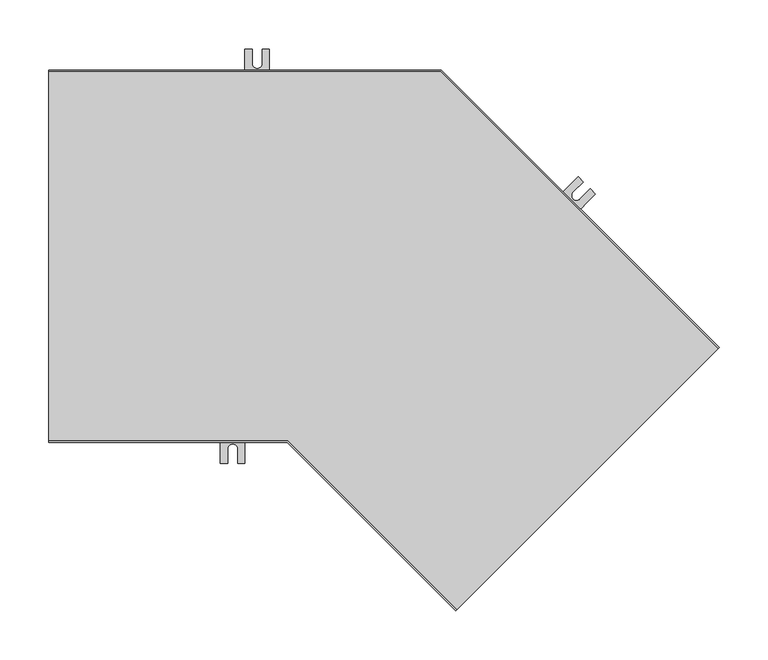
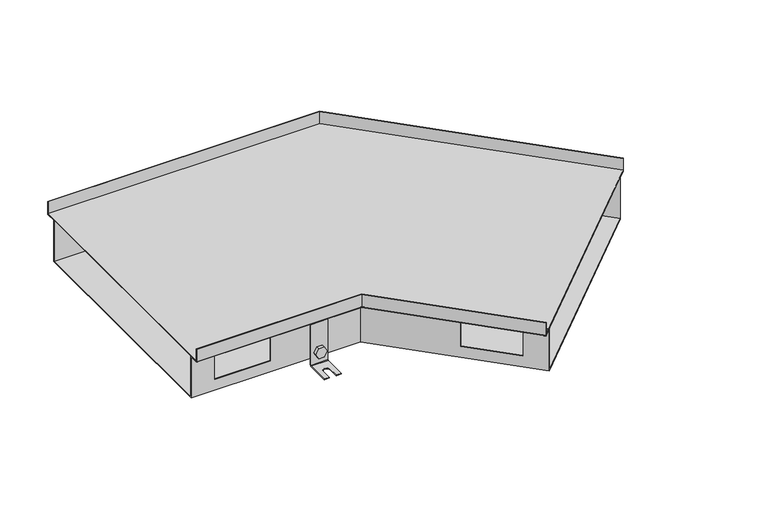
"""IFC4 building model written with IfcOpenShell, lengths in millimetres: proxy geometry, TECHNO_Угловой элемент_KVU : 380_085_135°."""

import ifcopenshell
import ifcopenshell.guid

model = None  # the IFC model being written
_history = None  # IfcOwnerHistory: only IFC2X3 demands one
_inside = {}  # id of a spatial element -> (the spatial element, [elements in it])
_under = {}  # id of a project, library or spatial element -> (it, [spatial elements below it])
_declared = {}  # id of a project -> (the project, [libraries it declares])
_typed = {}  # id of a type object -> (the type object, [elements of that type])
_made_of = {}  # id of a material, layer set ... -> (it, [elements and type objects made of it])


def new_model(schema):
    """Start an empty IFC model of exactly this schema.

    Asked for "IFC4X3", IfcOpenShell would pick the latest addendum, in which some entities
    have other attributes; the version numbers below select the first issue.
    IFC2X3 requires an IfcOwnerHistory on every rooted entity: one is made here for all.
    """
    global model, _history
    if schema == "IFC4X3":
        model = ifcopenshell.file(schema_version=(4, 3, 0, 0))
    else:
        model = ifcopenshell.file(schema=schema)
    _inside.clear()
    _under.clear()
    _declared.clear()
    _typed.clear()
    _made_of.clear()
    _history = None
    if model.schema == "IFC2X3":
        org = make("IfcOrganization", Name="unknown")
        user = make(
            "IfcPersonAndOrganization",
            ThePerson=make("IfcPerson", FamilyName="unknown"),
            TheOrganization=org,
        )
        app = make(
            "IfcApplication",
            ApplicationDeveloper=org,
            Version="unknown",
            ApplicationFullName="unknown",
            ApplicationIdentifier="unknown",
        )
        _history = make(
            "IfcOwnerHistory",
            OwningUser=user,
            OwningApplication=app,
            ChangeAction="ADDED",
            CreationDate=0,
        )
    return model


def make(cls, **values):
    """One entity of the class cls with the attributes given. An attribute that is None is left unset."""
    return model.create_entity(
        cls, **{name: value for name, value in values.items() if value is not None}
    )


def rooted(cls, **values):
    """An entity with a GlobalId (a new one), such as an element, a storey or a relation."""
    return make(cls, GlobalId=ifcopenshell.guid.new(), OwnerHistory=_history, **values)


def si_unit(unit_type, name, prefix=None):
    """IfcSIUnit, for example si_unit("LENGTHUNIT", "METRE", prefix="MILLI")."""
    return make("IfcSIUnit", UnitType=unit_type, Prefix=prefix, Name=name)


def assignment(units):
    """IfcUnitAssignment: the units of a project."""
    return None if units is None else make("IfcUnitAssignment", Units=units)


def point(xyz):
    """IfcCartesianPoint."""
    return None if xyz is None else make("IfcCartesianPoint", Coordinates=xyz)


def direction(xyz):
    """IfcDirection."""
    return None if xyz is None else make("IfcDirection", DirectionRatios=xyz)


def frame(location, z_axis=None, x_axis=None):
    """IfcAxis2Placement3D, a coordinate frame: its origin and axes. An axis left out is left unset."""
    return make(
        "IfcAxis2Placement3D",
        Location=point(location),
        Axis=direction(z_axis),
        RefDirection=direction(x_axis),
    )


def frame_2d(location, x_axis=None):
    """IfcAxis2Placement2D, a coordinate frame in the plane: its origin and x axis."""
    return make(
        "IfcAxis2Placement2D", Location=point(location), RefDirection=direction(x_axis)
    )


def origin():
    """The frame at (0, 0, 0) with its axes left unset."""
    return frame((0.0, 0.0, 0.0))


def place(relative_to, where):
    """IfcLocalPlacement: puts the frame where relative to a parent placement (None: the world)."""
    return make(
        "IfcLocalPlacement", PlacementRelTo=relative_to, RelativePlacement=where
    )


def context(
    kind, dimensions, precision=None, world=None, true_north=None, identifier=None
):
    """IfcGeometricRepresentationContext, for example the 3D "Model" context."""
    return make(
        "IfcGeometricRepresentationContext",
        ContextIdentifier=identifier,
        ContextType=kind,
        CoordinateSpaceDimension=dimensions,
        Precision=precision,
        WorldCoordinateSystem=world,
        TrueNorth=true_north,
    )


def project(units=None, contexts=None):
    """IfcProject with its units and contexts."""
    return rooted(
        "IfcProject",
        Name="project",
        RepresentationContexts=contexts,
        UnitsInContext=assignment(units),
    )


def spatial(cls, under=None, at=None, **own):
    """A site, building, storey or space (cls), placed at a placement, below another one or the project."""
    s = rooted(cls, ObjectPlacement=at, **own)
    if under is not None:
        _under.setdefault(under.id(), (under, []))[1].append(s)
    return s


def polyline(points):
    """IfcPolyline through the points."""
    return make("IfcPolyline", Points=[point(p) for p in points])


def circle_curve(where, radius):
    """IfcCircle in the frame where."""
    return make("IfcCircle", Position=where, Radius=radius)


def ellipse_curve(where, semi_axis1, semi_axis2):
    """IfcEllipse in the frame where."""
    return make(
        "IfcEllipse", Position=where, SemiAxis1=semi_axis1, SemiAxis2=semi_axis2
    )


def trimmed(basis, trim1, trim2, sense, master):
    """IfcTrimmedCurve: the piece of a basis curve between two trims."""
    return make(
        "IfcTrimmedCurve",
        BasisCurve=basis,
        Trim1=trim1,
        Trim2=trim2,
        SenseAgreement=sense,
        MasterRepresentation=master,
    )


def segment(curve, same_sense, transition):
    """IfcCompositeCurveSegment."""
    return make(
        "IfcCompositeCurveSegment",
        Transition=transition,
        SameSense=same_sense,
        ParentCurve=curve,
    )


def composite_curve(segments, self_intersect=None):
    """IfcCompositeCurve: segments joined end to end."""
    return make("IfcCompositeCurve", Segments=segments, SelfIntersect=self_intersect)


def outline(outer, holes=None, kind="AREA"):
    """IfcArbitraryClosedProfileDef: a profile drawn as a closed curve; with holes, ...WithVoids."""
    if holes is None:
        return make("IfcArbitraryClosedProfileDef", ProfileType=kind, OuterCurve=outer)
    return make(
        "IfcArbitraryProfileDefWithVoids",
        ProfileType=kind,
        OuterCurve=outer,
        InnerCurves=holes,
    )


def extrude(swept, where, along, depth):
    """IfcExtrudedAreaSolid: the profile swept, set in the frame where, extruded along a direction by depth."""
    return make(
        "IfcExtrudedAreaSolid",
        SweptArea=swept,
        Position=where,
        ExtrudedDirection=direction(along),
        Depth=depth,
    )


def shape(context_of_items, identifier, shape_type, items):
    """IfcShapeRepresentation: the items that make up one representation, for example the "Body"."""
    return make(
        "IfcShapeRepresentation",
        ContextOfItems=context_of_items,
        RepresentationIdentifier=identifier,
        RepresentationType=shape_type,
        Items=items,
    )


def source(mapping_origin, context_of_items, identifier, shape_type, items):
    """IfcRepresentationMap: a shape defined once, which mapped items show again and again."""
    return make(
        "IfcRepresentationMap",
        MappingOrigin=mapping_origin,
        MappedRepresentation=shape(context_of_items, identifier, shape_type, items),
    )


def transform(
    local_origin,
    x_axis=None,
    y_axis=None,
    z_axis=None,
    scale=None,
    scale2=None,
    scale3=None,
    uniform=True,
):
    """IfcCartesianTransformationOperator3D, or its non-uniform kind. x_axis, y_axis, z_axis: its Axis1, 2, 3."""
    if uniform:
        return make(
            "IfcCartesianTransformationOperator3D",
            Axis1=direction(x_axis),
            Axis2=direction(y_axis),
            LocalOrigin=point(local_origin),
            Scale=scale,
            Axis3=direction(z_axis),
        )
    return make(
        "IfcCartesianTransformationOperator3DnonUniform",
        Axis1=direction(x_axis),
        Axis2=direction(y_axis),
        LocalOrigin=point(local_origin),
        Scale=scale,
        Axis3=direction(z_axis),
        Scale2=scale2,
        Scale3=scale3,
    )


def mapped(mapping_source, mapping_target):
    """IfcMappedItem: shows the shape of a source again, moved by a transform."""
    return make(
        "IfcMappedItem", MappingSource=mapping_source, MappingTarget=mapping_target
    )


def made_of(thing, what):
    """Note that an element or type object is made of a material, layer set ...; save() writes the relation."""
    if what is not None:
        _made_of.setdefault(what.id(), (what, []))[1].append(thing)
    return thing


def element(
    cls,
    number,
    at=None,
    inside=None,
    cuts=None,
    type_object=None,
    material=None,
    context=None,
    identifier="Body",
    shape_type=None,
    held_by="IfcProductDefinitionShape",
    body=None,
    shapes=None,
    **own,
):
    """One element of the class cls, such as IfcWall. Its Tag is "e" and its number.

    at: its placement. inside: the storey or other place that contains it. cuts: it is an
    opening in that element (IfcRelVoidsElement). A single representation is given by context,
    identifier, shape_type and body (its items); several are given by shapes. held_by: the class
    of the entity that holds the representations. save() writes the other relations.
    """
    e = rooted(cls, Tag="e%d" % number, ObjectPlacement=at, **own)
    if body is not None:
        shapes = [shape(context, identifier, shape_type, body)]
    if shapes is not None:
        e.Representation = make(held_by, Representations=shapes)
    if inside is not None:
        _inside.setdefault(inside.id(), (inside, []))[1].append(e)
    if cuts is not None:
        rooted(
            "IfcRelVoidsElement", RelatingBuildingElement=cuts, RelatedOpeningElement=e
        )
    if type_object is not None:
        _typed.setdefault(type_object.id(), (type_object, []))[1].append(e)
    return made_of(e, material)


def aggregate(whole, parts):
    """IfcRelAggregates: a whole, such as a stair, and the parts it consists of."""
    return rooted("IfcRelAggregates", RelatingObject=whole, RelatedObjects=parts)


def save(model, path):
    """Write the relations noted so far, then the file.

    IfcRelAggregates (storeys below a building ...), IfcRelContainedInSpatialStructure (elements
    in a storey), IfcRelDefinesByType, IfcRelAssociatesMaterial and IfcRelDeclares: one each for
    every whole, place, type object, material and project.
    """
    for whole, parts in _under.values():
        aggregate(whole, parts)
    for where, things in _inside.values():
        rooted(
            "IfcRelContainedInSpatialStructure",
            RelatedElements=things,
            RelatingStructure=where,
        )
    for kind, things in _typed.values():
        rooted("IfcRelDefinesByType", RelatedObjects=things, RelatingType=kind)
    for what, things in _made_of.values():
        rooted("IfcRelAssociatesMaterial", RelatedObjects=things, RelatingMaterial=what)
    for by, libraries in _declared.values():
        rooted("IfcRelDeclares", RelatingContext=by, RelatedDefinitions=libraries)
    model.write(path)


def plane_surface(at):
    """IfcPlane: the flat surface through the origin of the frame at, square to its z axis."""
    return make("IfcPlane", Position=at)


def cylinder_surface(at, radius):
    """IfcCylindricalSurface: all points at the distance radius from the z axis of the frame at."""
    return make("IfcCylindricalSurface", Position=at, Radius=radius)


def revolved_surface(curve, axis_point, axis_direction):
    """IfcSurfaceOfRevolution: the curve turned about the line through axis_point along axis_direction."""
    return make(
        "IfcSurfaceOfRevolution",
        SweptCurve=make("IfcArbitraryOpenProfileDef", ProfileType="CURVE", Curve=curve),
        AxisPosition=make("IfcAxis1Placement", Location=point(axis_point), Axis=direction(axis_direction)),
    )


def advanced_brep(points, edges, surfaces, faces):
    """IfcAdvancedBrep: a solid bounded by faces that lie on surfaces and meet in shared edges.

    An edge is (start, end): straight between two places in points (the first is 0);
    or (start, end, curve); or (start, end, curve, False) where it runs against its curve.
    A face is (place in surfaces, loops), or (place, loops, False) where it looks against
    its surface's normal. A loop lists edges by number (the first is 1), with a minus sign
    where the edge is run from its end to its start. The first loop is the outer one.
    """
    corners = [point(p) for p in points]
    vertices = [make("IfcVertexPoint", VertexGeometry=c) for c in corners]
    made = []
    for start, end, *more in edges:
        made.append(
            make(
                "IfcEdgeCurve",
                EdgeStart=vertices[start],
                EdgeEnd=vertices[end],
                EdgeGeometry=more[0] if more else make("IfcPolyline", Points=[corners[start], corners[end]]),
                SameSense=more[1] if len(more) > 1 else True,
            )
        )
    hull = []
    for where, loops, *sense in faces:
        bounds = []
        for j, loop in enumerate(loops):
            ring = [make("IfcOrientedEdge", EdgeElement=made[abs(k) - 1], Orientation=k > 0) for k in loop]
            bounds.append(
                make(
                    "IfcFaceOuterBound" if j == 0 else "IfcFaceBound",
                    Bound=make("IfcEdgeLoop", EdgeList=ring),
                    Orientation=True,
                )
            )
        hull.append(make("IfcAdvancedFace", Bounds=bounds, FaceSurface=surfaces[where], SameSense=sense[0] if sense else True))
    return make("IfcAdvancedBrep", Outer=make("IfcClosedShell", CfsFaces=hull))


def mechanical_equipment_67af57b6(model_context):
    return source(origin(), model_context, "Body", "SolidModel", [
        extrude(outline(composite_curve([segment(trimmed(circle_curve(frame_2d((0.0, -7.5)), 7.5), [point((0.0, -15.0))], [point((0.0, 0.0))], False, "CARTESIAN"), True, "CONTINUOUS"), segment(trimmed(circle_curve(frame_2d((0.0, -7.5)), 7.5), [point((0.0, 0.0))], [point((0.0, -15.0))], False, "CARTESIAN"), True, "CONTINUOUS")], self_intersect=False)), frame((482.1001225, -40.233968, -75.5), z_axis=(0.7071067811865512, 0.7071067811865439, 0.0), x_axis=(0.0, 0.0, 1.0)), (0.0, 0.0, 1.0), 1.5),
        extrude(outline(polyline([(0.0, 0.0), (8.660254, 0.0), (12.990381, -7.5), (8.660254, -15.0), (0.0, -15.0), (-4.330127, -7.5), (0.0, 0.0)])), frame((466.2183246, -33.2617155, -75.5), z_axis=(0.7071067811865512, 0.7071067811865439, 0.0), x_axis=(0.3535533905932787, -0.3535533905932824, -0.8660254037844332)), (0.0, 0.0, 1.0), 5.1),
        advanced_brep(
        [(484.7871283, -44.61803, -30.5), (484.7871283, -44.61803, -93.5), (484.2214429, -45.1837154, -94.3), (460.8869191, -68.5182392, -94.3), (460.8869191, -68.5182392, -95.5), (484.2214429, -45.1837154, -95.5), (485.6356565, -43.7695019, -93.5), (485.6356565, -43.7695019, -30.5), (467.1094588, -26.9403605, -30.5), (467.9579869, -26.0918323, -30.5), (467.9579869, -26.0918323, -93.5), (466.5437734, -27.5060459, -95.5), (443.2092496, -50.8405697, -95.5), (443.2092496, -50.8405697, -94.3), (466.5437734, -27.5060459, -94.3), (467.1094588, -26.9403605, -93.5), (448.5125504, -56.1438705, -94.3), (459.1191522, -45.5372688, -94.3), (466.19022, -52.6083366, -94.3), (455.5836183, -63.2149383, -94.3), (455.5836183, -63.2149383, -95.5), (448.5125504, -56.1438705, -95.5), (466.19022, -52.6083366, -95.5), (459.1191522, -45.5372688, -95.5)],
        [
            (0, 1),
            (1, 2, circle_curve(frame((484.2214429, -45.1837154, -93.5), z_axis=(-0.7071067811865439, 0.7071067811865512, 0.0), x_axis=(-0.7071067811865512, -0.7071067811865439, 0.0)), 0.8)),
            (2, 3),
            (3, 4),
            (4, 5),
            (5, 6, circle_curve(frame((484.2214429, -45.1837154, -93.5), z_axis=(0.7071067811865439, -0.7071067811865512, 0.0), x_axis=(-0.7071067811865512, -0.7071067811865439, 0.0)), 2.0)),
            (6, 7),
            (7, 0),
            (8, 9),
            (9, 10),
            (10, 11, circle_curve(frame((466.5437734, -27.5060459, -93.5), z_axis=(-0.7071067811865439, 0.7071067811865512, 0.0), x_axis=(-0.7071067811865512, -0.7071067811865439, 0.0)), 2.0)),
            (11, 12),
            (12, 13),
            (13, 14),
            (14, 15, circle_curve(frame((466.5437734, -27.5060459, -93.5), z_axis=(0.7071067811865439, -0.7071067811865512, 0.0), x_axis=(-0.7071067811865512, -0.7071067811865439, 0.0)), 0.8)),
            (15, 8),
            (0, 8),
            (15, 1),
            (14, 2),
            (13, 16),
            (16, 17),
            (17, 18, circle_curve(frame((462.6546861, -49.0728027, -94.3), z_axis=(0.0, 0.0, -1.0), x_axis=(0.7071067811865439, -0.7071067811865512, 0.0)), 5.0)),
            (18, 19),
            (19, 3),
            (19, 20),
            (20, 4),
            (12, 21),
            (21, 16),
            (20, 22),
            (22, 23, circle_curve(frame((462.6546861, -49.0728027, -95.5), z_axis=(0.0, 0.0, 1.0), x_axis=(0.7071067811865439, -0.7071067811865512, 0.0)), 5.0)),
            (23, 21),
            (11, 5),
            (10, 6),
            (9, 7),
            (23, 17),
            (18, 22),
        ],
        [
            plane_surface(frame((484.7871283, -44.61803, -30.5), z_axis=(0.7071067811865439, -0.7071067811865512, 0.0), x_axis=(0.0, 0.0, -1.0))),
            plane_surface(frame((467.1094588, -26.9403605, -30.5), z_axis=(-0.7071067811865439, 0.7071067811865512, 0.0), x_axis=(0.0, 0.0, 1.0))),
            plane_surface(frame((484.7871283, -44.61803, -30.5), z_axis=(-0.7071067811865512, -0.7071067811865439, 0.0), x_axis=(-0.7071067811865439, 0.7071067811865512, 0.0))),
            revolved_surface(polyline([(465.97808797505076, -28.071731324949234, -93.5), (483.6557574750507, -45.74940082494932, -93.5)]), (466.5437734, -27.5060459, -93.5), (-0.7071067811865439, 0.7071067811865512, 0.0)),
            plane_surface(frame((484.2214429, -45.1837154, -94.3), z_axis=(0.0, 0.0, 1.0), x_axis=(-0.7071067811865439, 0.7071067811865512, 0.0))),
            plane_surface(frame((460.8869191, -68.5182392, -94.3), z_axis=(-0.7071067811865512, -0.7071067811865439, 0.0), x_axis=(-0.7071067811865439, 0.7071067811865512, 0.0))),
            plane_surface(frame((460.8869191, -68.5182392, -95.5), z_axis=(0.0, 0.0, -1.0), x_axis=(-0.7071067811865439, 0.7071067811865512, 0.0))),
            cylinder_surface(frame((466.5437734, -27.5060459, -93.5), z_axis=(0.7071067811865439, -0.7071067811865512, 0.0), x_axis=(-0.7071067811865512, -0.7071067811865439, 0.0)), 2.0),
            plane_surface(frame((485.6356565, -43.7695019, -93.5), z_axis=(0.7071067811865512, 0.7071067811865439, 0.0), x_axis=(-0.7071067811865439, 0.7071067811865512, 0.0))),
            plane_surface(frame((485.6356565, -43.7695019, -30.5), z_axis=(0.0, 0.0, 1.0), x_axis=(-0.7071067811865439, 0.7071067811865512, 0.0))),
            plane_surface(frame((459.1191522, -45.5372688, -94.3), z_axis=(0.7071067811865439, -0.7071067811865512, 0.0), x_axis=(0.0, 0.0, -1.0))),
            plane_surface(frame((455.5836183, -63.2149383, -94.3), z_axis=(-0.707106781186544, 0.7071067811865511, 0.0), x_axis=(0.0, 0.0, -1.0))),
            revolved_surface(polyline([(466.1902200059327, -52.608336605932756, -94.3), (466.1902200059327, -52.608336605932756, -95.5)]), (462.6546861, -49.0728027, -95.5), (0.0, 0.0, 1.0)),
        ],
        [
            (0, [[1, 2, 3, 4, 5, 6, 7, 8]]),
            (1, [[9, 10, 11, 12, 13, 14, 15, 16]]),
            (2, [[-1, 17, -16, 18]]),
            (3, [[-2, -18, -15, 19]]),
            (4, [[-3, -19, -14, 20, 21, 22, 23, 24]]),
            (5, [[-4, -24, 25, 26]]),
            (5, [[-13, 27, 28, -20]]),
            (6, [[-5, -26, 29, 30, 31, -27, -12, 32]]),
            (7, [[-6, -32, -11, 33]]),
            (8, [[-7, -33, -10, 34]]),
            (9, [[-8, -34, -9, -17]]),
            (10, [[35, -21, -28, -31]]),
            (11, [[36, -29, -25, -23]]),
            (12, [[-35, -30, -36, -22]]),
        ],
    ),
        extrude(outline(composite_curve([segment(trimmed(circle_curve(frame_2d((0.0, -7.5)), 7.5), [point((0.0, -15.0))], [point((0.0, 0.0))], False, "CARTESIAN"), True, "CONTINUOUS"), segment(trimmed(circle_curve(frame_2d((0.0, -7.5)), 7.5), [point((0.0, 0.0))], [point((0.0, -15.0))], False, "CARTESIAN"), True, "CONTINUOUS")], self_intersect=False)), frame((517.6675936, 51.9020456, -75.5), z_axis=(0.7071067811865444, 0.7071067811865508, 0.0), x_axis=(0.0, 0.0, -1.0)), (0.0, 0.0, 1.0), 1.5),
        extrude(outline(polyline([(0.0, 0.0), (4.330127, -7.5), (0.0, -15.0000001), (-8.660254, -15.0), (-12.9903811, -7.5000001), (-8.6602541, 0.0), (0.0, 0.0)])), frame((531.0038072, 42.3842087, -75.5), z_axis=(0.7071067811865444, 0.7071067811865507, 0.0), x_axis=(0.35355339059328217, -0.35355339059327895, 0.8660254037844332)), (0.0, 0.0, 1.0), 5.1),
        advanced_brep(
        [(516.041248, 57.3467678, -30.5), (516.041248, 57.3467678, -93.5), (516.6069335, 57.9124533, -94.3), (539.9414572, 81.2469771, -94.3), (539.9414572, 81.2469771, -95.5), (516.6069335, 57.9124533, -95.5), (515.1927199, 56.4982397, -93.5), (515.1927199, 56.4982397, -30.5), (533.7189176, 39.6690983, -30.5), (532.8703894, 38.8205702, -30.5), (532.8703894, 38.8205702, -93.5), (534.284603, 40.2347837, -95.5), (557.6191268, 63.5693075, -95.5), (557.6191268, 63.5693075, -94.3), (534.284603, 40.2347837, -94.3), (533.7189176, 39.6690983, -93.5), (552.3158259, 68.8726084, -94.3), (541.7092242, 58.2660067, -94.3), (534.6381564, 65.3370745, -94.3), (545.2447581, 75.9436762, -94.3), (545.2447581, 75.9436762, -95.5), (552.3158259, 68.8726084, -95.5), (534.6381564, 65.3370745, -95.5), (541.7092242, 58.2660067, -95.5)],
        [
            (0, 1),
            (1, 2, circle_curve(frame((516.6069335, 57.9124533, -93.5), z_axis=(0.7071067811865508, -0.7071067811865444, 0.0), x_axis=(0.7071067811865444, 0.7071067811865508, 0.0)), 0.8)),
            (2, 3),
            (3, 4),
            (4, 5),
            (5, 6, circle_curve(frame((516.6069335, 57.9124533, -93.5), z_axis=(-0.7071067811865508, 0.7071067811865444, 0.0), x_axis=(0.7071067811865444, 0.7071067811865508, 0.0)), 2.0)),
            (6, 7),
            (7, 0),
            (8, 9),
            (9, 10),
            (10, 11, circle_curve(frame((534.284603, 40.2347837, -93.5), z_axis=(0.7071067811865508, -0.7071067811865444, 0.0), x_axis=(0.7071067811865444, 0.7071067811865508, 0.0)), 2.0)),
            (11, 12),
            (12, 13),
            (13, 14),
            (14, 15, circle_curve(frame((534.284603, 40.2347837, -93.5), z_axis=(-0.7071067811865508, 0.7071067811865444, 0.0), x_axis=(0.7071067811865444, 0.7071067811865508, 0.0)), 0.8)),
            (15, 8),
            (0, 8),
            (15, 1),
            (14, 2),
            (13, 16),
            (16, 17),
            (17, 18, circle_curve(frame((538.1736903, 61.8015406, -94.3), z_axis=(0.0, 0.0, -1.0), x_axis=(-0.7071067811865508, 0.7071067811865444, 0.0)), 5.0)),
            (18, 19),
            (19, 3),
            (19, 20),
            (20, 4),
            (12, 21),
            (21, 16),
            (20, 22),
            (22, 23, circle_curve(frame((538.1736903, 61.8015406, -95.5), z_axis=(0.0, 0.0, 1.0), x_axis=(-0.7071067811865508, 0.7071067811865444, 0.0)), 5.0)),
            (23, 21),
            (11, 5),
            (10, 6),
            (9, 7),
            (23, 17),
            (18, 22),
        ],
        [
            plane_surface(frame((516.041248, 57.3467678, -30.5), z_axis=(-0.7071067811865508, 0.7071067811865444, 0.0), x_axis=(0.0, 0.0, -1.0))),
            plane_surface(frame((533.7189176, 39.6690983, -30.5), z_axis=(0.7071067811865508, -0.7071067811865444, 0.0), x_axis=(0.0, 0.0, 1.0))),
            plane_surface(frame((516.041248, 57.3467678, -30.5), z_axis=(0.7071067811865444, 0.7071067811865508, 0.0), x_axis=(0.7071067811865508, -0.7071067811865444, 0.0))),
            revolved_surface(polyline([(534.8502884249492, 40.800469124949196, -93.5), (517.1726188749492, 58.47813867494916, -93.5)]), (534.284603, 40.2347837, -93.5), (0.7071067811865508, -0.7071067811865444, 0.0)),
            plane_surface(frame((516.6069335, 57.9124533, -94.3), z_axis=(0.0, 0.0, 1.0000000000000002), x_axis=(0.7071067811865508, -0.7071067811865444, 0.0))),
            plane_surface(frame((539.9414572, 81.2469771, -94.3), z_axis=(0.7071067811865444, 0.7071067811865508, 0.0), x_axis=(0.7071067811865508, -0.7071067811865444, 0.0))),
            plane_surface(frame((539.9414572, 81.2469771, -95.5), z_axis=(0.0, 0.0, -1.0000000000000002), x_axis=(0.7071067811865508, -0.7071067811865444, 0.0))),
            cylinder_surface(frame((534.284603, 40.2347837, -93.5), z_axis=(-0.7071067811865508, 0.7071067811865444, 0.0), x_axis=(0.7071067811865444, 0.7071067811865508, 0.0)), 2.0),
            plane_surface(frame((515.1927199, 56.4982397, -93.5), z_axis=(-0.7071067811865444, -0.7071067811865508, 0.0), x_axis=(0.7071067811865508, -0.7071067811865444, 0.0))),
            plane_surface(frame((515.1927199, 56.4982397, -30.5), z_axis=(0.0, 0.0, 1.0000000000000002), x_axis=(0.7071067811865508, -0.7071067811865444, 0.0))),
            plane_surface(frame((541.7092242, 58.2660067, -94.3), z_axis=(-0.7071067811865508, 0.7071067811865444, 0.0), x_axis=(0.0, 0.0, -1.0))),
            plane_surface(frame((545.2447581, 75.9436762, -94.3), z_axis=(0.7071067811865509, -0.7071067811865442, 0.0), x_axis=(0.0, 0.0, -1.0))),
            revolved_surface(polyline([(534.6381563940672, 65.33707450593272, -94.3), (534.6381563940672, 65.33707450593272, -95.5)]), (538.1736903, 61.8015406, -95.5), (0.0, 0.0, 1.0)),
        ],
        [
            (0, [[1, 2, 3, 4, 5, 6, 7, 8]]),
            (1, [[9, 10, 11, 12, 13, 14, 15, 16]]),
            (2, [[-1, 17, -16, 18]]),
            (3, [[-2, -18, -15, 19]]),
            (4, [[-3, -19, -14, 20, 21, 22, 23, 24]]),
            (5, [[-4, -24, 25, 26]]),
            (5, [[-13, 27, 28, -20]]),
            (6, [[-5, -26, 29, 30, 31, -27, -12, 32]]),
            (7, [[-6, -32, -11, 33]]),
            (8, [[-7, -33, -10, 34]]),
            (9, [[-8, -34, -9, -17]]),
            (10, [[35, -21, -28, -31]]),
            (11, [[36, -29, -25, -23]]),
            (12, [[-35, -30, -36, -22]]),
        ],
    ),
        extrude(outline(composite_curve([segment(trimmed(circle_curve(frame_2d((-75.5, 212.5)), 7.5), [point((-75.5, 205.0))], [point((-75.5, 220.0))], False, "CARTESIAN"), True, "CONTINUOUS"), segment(trimmed(circle_curve(frame_2d((-75.5, 212.5)), 7.5), [point((-75.5, 220.0))], [point((-75.5, 205.0))], False, "CARTESIAN"), True, "CONTINUOUS")], self_intersect=False)), frame((0.0, 175.2, 0.0), z_axis=(0.0, 1.0, 0.0), x_axis=(0.0, 0.0, 1.0)), (0.0, 0.0, 1.0), 1.5),
        extrude(outline(polyline([(-75.5, 203.839746), (-83.0, 208.169873), (-83.0, 216.830127), (-75.5, 221.160254), (-68.0, 216.830127), (-68.0, 208.169873), (-75.5, 203.839746)])), frame((0.0, 177.9, 0.0), z_axis=(0.0, 1.0, 0.0), x_axis=(0.0, 0.0, 1.0)), (0.0, 0.0, 1.0), 5.1),
        advanced_brep(
        [(225.0, 177.9, -30.5), (225.0, 176.7, -30.5), (225.0, 176.7, -93.5), (225.0, 178.7, -95.5), (225.0, 211.7, -95.5), (225.0, 211.7, -94.3), (225.0, 178.7, -94.3), (225.0, 177.9, -93.5), (200.0, 177.9, -30.5), (200.0, 177.9, -93.5), (200.0, 178.7, -94.3), (200.0, 211.7, -94.3), (200.0, 211.7, -95.5), (200.0, 178.7, -95.5), (200.0, 176.7, -93.5), (200.0, 176.7, -30.5), (217.5, 211.7, -94.3), (217.5, 196.7, -94.3), (207.5, 196.7, -94.3), (207.5, 211.7, -94.3), (207.5, 211.7, -95.5), (217.5, 211.7, -95.5), (207.5, 196.7, -95.5), (217.5, 196.7, -95.5)],
        [
            (0, 1),
            (1, 2),
            (2, 3, circle_curve(frame((225.0, 178.7, -93.5), z_axis=(1.0, 0.0, 0.0), x_axis=(0.0, 1.0, 0.0)), 2.0)),
            (3, 4),
            (4, 5),
            (5, 6),
            (6, 7, circle_curve(frame((225.0, 178.7, -93.5), z_axis=(-1.0, 0.0, 0.0), x_axis=(0.0, 1.0, 0.0)), 0.8)),
            (7, 0),
            (8, 9),
            (9, 10, circle_curve(frame((200.0, 178.7, -93.5), z_axis=(1.0, 0.0, 0.0), x_axis=(0.0, 1.0, 0.0)), 0.8)),
            (10, 11),
            (11, 12),
            (12, 13),
            (13, 14, circle_curve(frame((200.0, 178.7, -93.5), z_axis=(-1.0, 0.0, 0.0), x_axis=(0.0, 1.0, 0.0)), 2.0)),
            (14, 15),
            (15, 8),
            (7, 9),
            (8, 0),
            (6, 10),
            (5, 16),
            (16, 17),
            (17, 18, circle_curve(frame((212.5, 196.7, -94.3), z_axis=(0.0, 0.0, -1.0), x_axis=(1.0, 0.0, 0.0)), 5.0)),
            (18, 19),
            (19, 11),
            (19, 20),
            (20, 12),
            (4, 21),
            (21, 16),
            (3, 13),
            (20, 22),
            (22, 23, circle_curve(frame((212.5, 196.7, -95.5), z_axis=(0.0, 0.0, 1.0), x_axis=(1.0, 0.0, 0.0)), 5.0)),
            (23, 21),
            (2, 14),
            (1, 15),
            (18, 22),
            (23, 17),
        ],
        [
            plane_surface(frame((225.0, 177.9, -30.5), z_axis=(1.0, 0.0, 0.0), x_axis=(0.0, 0.0, -1.0))),
            plane_surface(frame((200.0, 177.9, -30.5), z_axis=(-1.0, 0.0, 0.0), x_axis=(0.0, 0.0, 1.0))),
            plane_surface(frame((225.0, 177.9, -30.5), z_axis=(0.0, 1.0, 0.0), x_axis=(-1.0, 0.0, 0.0))),
            revolved_surface(polyline([(200.0, 179.5, -93.5), (225.0, 179.5, -93.5)]), (200.0, 178.7, -93.5), (-1.0, 0.0, 0.0)),
            plane_surface(frame((225.0, 178.7, -94.3), z_axis=(0.0, 0.0, 1.0), x_axis=(-1.0, 0.0, 0.0))),
            plane_surface(frame((225.0, 211.7, -94.3), z_axis=(0.0, 1.0, 0.0), x_axis=(-1.0, 0.0, 0.0))),
            plane_surface(frame((225.0, 211.7, -95.5), z_axis=(0.0, 0.0, -1.0), x_axis=(-1.0, 0.0, 0.0))),
            cylinder_surface(frame((200.0, 178.7, -93.5), z_axis=(1.0, 0.0, 0.0), x_axis=(0.0, 1.0, 0.0)), 2.0),
            plane_surface(frame((225.0, 176.7, -93.5), z_axis=(0.0, -1.0, 0.0), x_axis=(-1.0, 0.0, 0.0))),
            plane_surface(frame((225.0, 176.7, -30.5), z_axis=(0.0, 0.0, 1.0), x_axis=(-1.0, 0.0, 0.0))),
            plane_surface(frame((207.5, 196.7, -94.3), z_axis=(1.0, 0.0, 0.0), x_axis=(0.0, 0.0, -1.0))),
            plane_surface(frame((217.5, 211.7, -94.3), z_axis=(-1.0, 0.0, 0.0), x_axis=(0.0, 0.0, -1.0))),
            revolved_surface(polyline([(217.5, 196.7, -94.3), (217.5, 196.7, -95.5)]), (212.5, 196.7, -95.5), (0.0, 0.0, 1.0)),
        ],
        [
            (0, [[1, 2, 3, 4, 5, 6, 7, 8]]),
            (1, [[9, 10, 11, 12, 13, 14, 15, 16]]),
            (2, [[17, -9, 18, -8]]),
            (3, [[19, -10, -17, -7]]),
            (4, [[20, 21, 22, 23, 24, -11, -19, -6]]),
            (5, [[-24, 25, 26, -12]]),
            (5, [[27, 28, -20, -5]]),
            (6, [[29, -13, -26, 30, 31, 32, -27, -4]]),
            (7, [[33, -14, -29, -3]]),
            (8, [[34, -15, -33, -2]]),
            (9, [[-18, -16, -34, -1]]),
            (10, [[-30, -25, -23, 35]]),
            (11, [[-21, -28, -32, 36]]),
            (12, [[-22, -36, -31, -35]]),
        ],
    ),
        extrude(outline(composite_curve([segment(trimmed(circle_curve(frame_2d((-75.5, 187.5)), 7.5), [point((-75.5, 180.0))], [point((-75.5, 195.0))], False, "CARTESIAN"), True, "CONTINUOUS"), segment(trimmed(circle_curve(frame_2d((-75.5, 187.5)), 7.5), [point((-75.5, 195.0))], [point((-75.5, 180.0))], False, "CARTESIAN"), True, "CONTINUOUS")], self_intersect=False)), frame((0.0, -176.7, 0.0), z_axis=(0.0, 1.0, 0.0), x_axis=(0.0, 0.0, 1.0)), (0.0, 0.0, 1.0), 1.5),
        extrude(outline(polyline([(-75.5, 178.839746), (-83.0, 183.169873), (-83.0, 191.830127), (-75.5, 196.160254), (-68.0, 191.830127), (-68.0, 183.169873), (-75.5, 178.839746)])), frame((0.0, -183.0, 0.0), z_axis=(0.0, 1.0, 0.0), x_axis=(0.0, 0.0, 1.0)), (0.0, 0.0, 1.0), 5.1),
        advanced_brep(
        [(200.0, -177.9, -30.5), (200.0, -177.9, -93.5), (200.0, -178.7, -94.3), (200.0, -211.7, -94.3), (200.0, -211.7, -95.5), (200.0, -178.7, -95.5), (200.0, -176.7, -93.5), (200.0, -176.7, -30.5), (175.0, -177.9, -30.5), (175.0, -176.7, -30.5), (175.0, -176.7, -93.5), (175.0, -178.7, -95.5), (175.0, -211.7, -95.5), (175.0, -211.7, -94.3), (175.0, -178.7, -94.3), (175.0, -177.9, -93.5), (182.5, -211.7, -94.3), (182.5, -196.7, -94.3), (192.5, -196.7, -94.3), (192.5, -211.7, -94.3), (192.5, -211.7, -95.5), (182.5, -211.7, -95.5), (192.5, -196.7, -95.5), (182.5, -196.7, -95.5)],
        [
            (0, 1),
            (1, 2, circle_curve(frame((200.0, -178.7, -93.5), z_axis=(-1.0, 0.0, 0.0), x_axis=(0.0, -1.0, 0.0)), 0.8)),
            (2, 3),
            (3, 4),
            (4, 5),
            (5, 6, circle_curve(frame((200.0, -178.7, -93.5), z_axis=(1.0, 0.0, 0.0), x_axis=(0.0, -1.0, 0.0)), 2.0)),
            (6, 7),
            (7, 0),
            (8, 9),
            (9, 10),
            (10, 11, circle_curve(frame((175.0, -178.7, -93.5), z_axis=(-1.0, 0.0, 0.0), x_axis=(0.0, -1.0, 0.0)), 2.0)),
            (11, 12),
            (12, 13),
            (13, 14),
            (14, 15, circle_curve(frame((175.0, -178.7, -93.5), z_axis=(1.0, 0.0, 0.0), x_axis=(0.0, -1.0, 0.0)), 0.8)),
            (15, 8),
            (0, 8),
            (15, 1),
            (14, 2),
            (13, 16),
            (16, 17),
            (17, 18, circle_curve(frame((187.5, -196.7, -94.3), z_axis=(0.0, 0.0, -1.0), x_axis=(1.0, 0.0, 0.0)), 5.0)),
            (18, 19),
            (19, 3),
            (19, 20),
            (20, 4),
            (12, 21),
            (21, 16),
            (20, 22),
            (22, 23, circle_curve(frame((187.5, -196.7, -95.5), z_axis=(0.0, 0.0, 1.0), x_axis=(1.0, 0.0, 0.0)), 5.0)),
            (23, 21),
            (11, 5),
            (10, 6),
            (9, 7),
            (23, 17),
            (18, 22),
        ],
        [
            plane_surface(frame((200.0, -177.9, -30.5), z_axis=(1.0, 0.0, 0.0), x_axis=(0.0, 0.0, -1.0))),
            plane_surface(frame((175.0, -177.9, -30.5), z_axis=(-1.0, 0.0, 0.0), x_axis=(0.0, 0.0, 1.0))),
            plane_surface(frame((200.0, -177.9, -30.5), z_axis=(0.0, -1.0, 0.0), x_axis=(-1.0, 0.0, 0.0))),
            revolved_surface(polyline([(175.0, -179.5, -93.5), (200.0, -179.5, -93.5)]), (175.0, -178.7, -93.5), (-1.0, 0.0, 0.0)),
            plane_surface(frame((200.0, -178.7, -94.3), z_axis=(0.0, 0.0, 1.0), x_axis=(-1.0, 0.0, 0.0))),
            plane_surface(frame((200.0, -211.7, -94.3), z_axis=(0.0, -1.0, 0.0), x_axis=(-1.0, 0.0, 0.0))),
            plane_surface(frame((200.0, -211.7, -95.5), z_axis=(0.0, 0.0, -1.0), x_axis=(-1.0, 0.0, 0.0))),
            cylinder_surface(frame((175.0, -178.7, -93.5), z_axis=(1.0, 0.0, 0.0), x_axis=(0.0, -1.0, 0.0)), 2.0),
            plane_surface(frame((200.0, -176.7, -93.5), z_axis=(0.0, 1.0, 0.0), x_axis=(-1.0, 0.0, 0.0))),
            plane_surface(frame((200.0, -176.7, -30.5), z_axis=(0.0, 0.0, 1.0), x_axis=(-1.0, 0.0, 0.0))),
            plane_surface(frame((182.5, -196.7, -94.3), z_axis=(1.0, 0.0, 0.0), x_axis=(0.0, 0.0, -1.0))),
            plane_surface(frame((192.5, -211.7, -94.3), z_axis=(-1.0, 0.0, 0.0), x_axis=(0.0, 0.0, -1.0))),
            revolved_surface(polyline([(192.5, -196.7, -94.3), (192.5, -196.7, -95.5)]), (187.5, -196.7, -95.5), (0.0, 0.0, 1.0)),
        ],
        [
            (0, [[1, 2, 3, 4, 5, 6, 7, 8]]),
            (1, [[9, 10, 11, 12, 13, 14, 15, 16]]),
            (2, [[-1, 17, -16, 18]]),
            (3, [[-2, -18, -15, 19]]),
            (4, [[-3, -19, -14, 20, 21, 22, 23, 24]]),
            (5, [[-4, -24, 25, 26]]),
            (5, [[-13, 27, 28, -20]]),
            (6, [[-5, -26, 29, 30, 31, -27, -12, 32]]),
            (7, [[-6, -32, -11, 33]]),
            (8, [[-7, -33, -10, 34]]),
            (9, [[-8, -34, -9, -17]]),
            (10, [[35, -21, -28, -31]]),
            (11, [[36, -29, -25, -23]]),
            (12, [[-35, -30, -36, -22]]),
        ],
    ),
        extrude(outline(polyline([(682.8477377, -94.044794), (415.8442172, -361.0483146), (243.5959026, -188.8), (0.0, -188.8), (0.0, 188.8), (400.0029437, 188.8), (682.8477377, -94.044794)])), frame((0.0, 0.0, -19.3), z_axis=(0.0, 0.0, 1.0), x_axis=(1.0, 0.0, 0.0)), (0.0, 0.0, 1.0), 1.2),
        advanced_brep(
        [(414.995689, -361.8968427, -19.3), (415.8442172, -361.0483146, -20.5), (425.4608694, -351.4316624, -20.5), (425.4608694, -351.4316624, -85.0), (673.2310855, -103.6614462, -85.0), (673.2310855, -103.6614462, -20.5), (682.8477377, -94.044794, -20.5), (683.6962659, -93.1962659, -19.3), (683.6962659, -93.1962659, 0.0), (682.8477377, -94.044794, 0.0), (682.8477377, -94.044794, -19.3), (673.2310855, -103.6614462, -19.3), (672.3825574, -104.5099744, -20.5), (672.3825574, -104.5099744, -83.8), (426.3093975, -350.5831342, -83.8), (426.3093975, -350.5831342, -20.5), (425.4608694, -351.4316624, -19.3), (415.8442172, -361.0483146, -19.3), (415.8442172, -361.0483146, 0.0), (414.995689, -361.8968427, 0.0), (0.0, -190.0, -19.3), (0.0, -190.0, 0.0), (0.0, -188.8, 0.0), (0.0, -188.8, -19.3), (0.0, -175.2, -19.3), (0.0, -174.0, -20.5), (0.0, -174.0, -83.8), (0.0, 174.0, -83.8), (0.0, 174.0, -20.5), (0.0, 175.2, -19.3), (0.0, 188.8, -19.3), (0.0, 188.8, 0.0), (0.0, 190.0, 0.0), (0.0, 190.0, -19.3), (0.0, 188.8, -20.5), (0.0, 175.2, -20.5), (0.0, 175.2, -85.0), (0.0, -175.2, -85.0), (0.0, -175.2, -20.5), (0.0, -188.8, -20.5), (243.5959026, -188.8, -20.5), (243.0988463, -190.0, -19.3), (243.5959026, -188.8, 0.0), (243.5959026, -188.8, -19.3), (249.229207, -175.2, -85.0), (249.229207, -175.2, -20.5), (35.0, -175.2, -21.0), (117.0, -175.2, -21.0), (117.0, -175.2, -68.0), (35.0, -175.2, -68.0), (249.7262633, -174.0, -20.5), (249.7262633, -174.0, -83.8), (117.0, -174.0, -21.0), (35.0, -174.0, -21.0), (35.0, -174.0, -68.0), (117.0, -174.0, -68.0), (249.229207, -175.2, -19.3), (342.729376, -268.700169, -21.0), (400.712132, -326.682925, -21.0), (400.712132, -326.682925, -68.0), (342.729376, -268.700169, -68.0), (394.3696393, 175.2, -85.0), (393.872583, 174.0, -83.8), (401.5606602, -325.8343969, -21.0), (343.5779041, -267.8516408, -21.0), (343.5779041, -267.8516408, -68.0), (401.5606602, -325.8343969, -68.0), (243.0988463, -190.0, 0.0), (394.3696393, 175.2, -20.5), (648.4823482, -78.9127089, -21.0), (590.4995921, -20.9299528, -21.0), (590.4995921, -20.9299528, -68.0), (648.4823482, -78.9127089, -68.0), (400.0029437, 188.8, -20.5), (400.5, 190.0, -19.3), (400.5, 190.0, 0.0), (400.0029437, 188.8, 0.0), (400.0029437, 188.8, -19.3), (394.3696393, 175.2, -19.3), (393.872583, 174.0, -20.5), (589.651064, -21.778481, -21.0), (647.63382, -79.761237, -21.0), (647.63382, -79.761237, -68.0), (589.651064, -21.778481, -68.0), (117.0, 175.2, -21.0), (35.0, 175.2, -21.0), (35.0, 175.2, -68.0), (117.0, 175.2, -68.0), (35.0, 174.0, -21.0), (117.0, 174.0, -21.0), (117.0, 174.0, -68.0), (35.0, 174.0, -68.0)],
        [
            (0, 1, circle_curve(frame((415.8442172, -361.0483146, -19.3), z_axis=(0.707106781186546, -0.707106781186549, 0.0), x_axis=(-0.707106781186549, -0.707106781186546, 0.0)), 1.2)),
            (1, 2),
            (2, 3),
            (3, 4),
            (4, 5),
            (5, 6),
            (6, 7, circle_curve(frame((682.8477377, -94.044794, -19.3), z_axis=(0.707106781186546, -0.707106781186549, 0.0), x_axis=(-0.707106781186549, -0.707106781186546, 0.0)), 1.2)),
            (7, 8),
            (8, 9),
            (9, 10),
            (10, 11),
            (11, 12, circle_curve(frame((673.2310855, -103.6614462, -20.5), z_axis=(0.707106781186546, -0.707106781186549, 0.0), x_axis=(-0.707106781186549, -0.707106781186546, 0.0)), 1.2)),
            (12, 13),
            (13, 14),
            (14, 15),
            (15, 16, circle_curve(frame((425.4608694, -351.4316624, -20.5), z_axis=(0.707106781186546, -0.707106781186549, 0.0), x_axis=(-0.707106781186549, -0.707106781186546, 0.0)), 1.2)),
            (16, 17),
            (17, 18),
            (18, 19),
            (19, 0),
            (20, 21),
            (21, 22),
            (22, 23),
            (23, 24),
            (24, 25, circle_curve(frame((0.0, -175.2, -20.5), z_axis=(-1.0, 0.0, 0.0), x_axis=(0.0, -1.0, 0.0)), 1.2)),
            (25, 26),
            (26, 27),
            (27, 28),
            (28, 29, circle_curve(frame((0.0, 175.2, -20.5), z_axis=(-1.0, 0.0, 0.0), x_axis=(0.0, -1.0, 0.0)), 1.2)),
            (29, 30),
            (30, 31),
            (31, 32),
            (32, 33),
            (33, 34, circle_curve(frame((0.0, 188.8, -19.3), z_axis=(-1.0, 0.0, 0.0), x_axis=(0.0, -1.0, 0.0)), 1.2)),
            (34, 35),
            (35, 36),
            (36, 37),
            (37, 38),
            (38, 39),
            (39, 20, circle_curve(frame((0.0, -188.8, -19.3), z_axis=(-1.0, 0.0, 0.0), x_axis=(0.0, -1.0, 0.0)), 1.2)),
            (39, 40),
            (40, 41, ellipse_curve(frame((243.5959026, -188.8, -19.3), z_axis=(-0.9238795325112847, 0.3826834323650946, 0.0), x_axis=(0.3826834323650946, 0.9238795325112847, 0.0)), 1.2988706, 1.2)),
            (41, 20),
            (22, 42),
            (42, 43),
            (43, 23),
            (37, 44),
            (44, 45),
            (45, 38),
            (46, 47),
            (47, 48),
            (48, 49),
            (49, 46),
            (25, 50),
            (50, 51),
            (51, 26),
            (52, 53),
            (53, 54),
            (54, 55),
            (55, 52),
            (24, 56),
            (56, 50, ellipse_curve(frame((249.229207, -175.2, -20.5), z_axis=(-0.9238795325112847, 0.3826834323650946, 0.0), x_axis=(0.3826834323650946, 0.9238795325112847, 0.0)), 1.2988706, 1.2)),
            (0, 41),
            (40, 1),
            (45, 2),
            (44, 3),
            (57, 58),
            (58, 59),
            (59, 60),
            (60, 57),
            (36, 61),
            (61, 4),
            (13, 62),
            (62, 27),
            (51, 14),
            (50, 15),
            (63, 64),
            (64, 65),
            (65, 66),
            (66, 63),
            (56, 16),
            (43, 17),
            (42, 18),
            (21, 67),
            (67, 19),
            (61, 68),
            (68, 5),
            (69, 70),
            (70, 71),
            (71, 72),
            (72, 69),
            (68, 35),
            (34, 73),
            (73, 6),
            (73, 74, ellipse_curve(frame((400.0029437, 188.8, -19.3), z_axis=(0.9238795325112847, -0.3826834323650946, 0.0), x_axis=(-0.38268343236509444, -0.9238795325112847, 0.0)), 1.2988706, 1.2)),
            (74, 7),
            (74, 75),
            (75, 8),
            (75, 32),
            (31, 76),
            (76, 9),
            (76, 77),
            (77, 10),
            (77, 30),
            (29, 78),
            (78, 11),
            (78, 79, ellipse_curve(frame((394.3696393, 175.2, -20.5), z_axis=(0.9238795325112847, -0.3826834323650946, 0.0), x_axis=(-0.38268343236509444, -0.9238795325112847, 0.0)), 1.2988706, 1.2)),
            (79, 12),
            (79, 62),
            (80, 81),
            (81, 82),
            (82, 83),
            (83, 80),
            (84, 85),
            (85, 86),
            (86, 87),
            (87, 84),
            (33, 74),
            (28, 79),
            (88, 89),
            (89, 90),
            (90, 91),
            (91, 88),
            (41, 67),
            (46, 53),
            (52, 47),
            (88, 85),
            (84, 89),
            (49, 54),
            (91, 86),
            (48, 55),
            (90, 87),
            (57, 64),
            (63, 58),
            (80, 70),
            (69, 81),
            (66, 59),
            (72, 82),
            (65, 60),
            (71, 83),
        ],
        [
            plane_surface(frame((549.3459774, -227.5465543, 0.0), z_axis=(0.707106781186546, -0.707106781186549, 0.0), x_axis=(0.0, 0.0, 1.0))),
            plane_surface(frame((0.0, 0.0, 0.0), z_axis=(-1.0, 0.0, 0.0), x_axis=(0.0, 0.0, 1.0))),
            cylinder_surface(frame((321.7994231, -188.8, -19.3), z_axis=(1.0, 0.0, 0.0), x_axis=(0.0, -1.0, 0.0)), 1.2),
            plane_surface(frame((243.5959026, -188.8, -19.3), z_axis=(0.0, 1.0, 0.0), x_axis=(-1.0, 0.0, 0.0))),
            plane_surface(frame((249.229207, -175.2, -20.5), z_axis=(0.0, -1.0, 0.0), x_axis=(-1.0, 0.0, 0.0))),
            plane_surface(frame((249.7262633, -174.0, -83.8), z_axis=(0.0, 1.0, 0.0), x_axis=(-1.0, 0.0, 0.0))),
            cylinder_surface(frame((321.7994231, -175.2, -20.5), z_axis=(1.0, 0.0, 0.0), x_axis=(0.0, -1.0, 0.0)), 1.2),
            cylinder_surface(frame((415.8442172, -361.0483146, -19.3), z_axis=(0.707106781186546, -0.707106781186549, 0.0), x_axis=(-0.707106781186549, -0.707106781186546, 0.0)), 1.2),
            plane_surface(frame((415.8442172, -361.0483146, -20.5), z_axis=(0.0, 0.0, -1.0), x_axis=(-0.7071067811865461, 0.7071067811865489, 0.0))),
            plane_surface(frame((425.4608694, -351.4316624, -20.5), z_axis=(-0.7071067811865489, -0.7071067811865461, 0.0), x_axis=(-0.7071067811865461, 0.7071067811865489, 0.0))),
            plane_surface(frame((425.4608694, -351.4316624, -85.0), z_axis=(0.0, 0.0, -1.0), x_axis=(-0.707106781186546, 0.7071067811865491, 0.0))),
            plane_surface(frame((672.3825574, -104.5099744, -83.8), z_axis=(0.0, 0.0, 1.0), x_axis=(-0.7071067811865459, 0.7071067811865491, 0.0))),
            plane_surface(frame((426.3093975, -350.5831342, -83.8), z_axis=(0.7071067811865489, 0.7071067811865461, 0.0), x_axis=(-0.7071067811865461, 0.7071067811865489, 0.0))),
            cylinder_surface(frame((425.4608694, -351.4316624, -20.5), z_axis=(0.707106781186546, -0.707106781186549, 0.0), x_axis=(-0.707106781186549, -0.707106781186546, 0.0)), 1.2),
            plane_surface(frame((425.4608694, -351.4316624, -19.3), z_axis=(0.0, 0.0, 1.0), x_axis=(-0.7071067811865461, 0.7071067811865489, 0.0))),
            plane_surface(frame((415.8442172, -361.0483146, -19.3), z_axis=(0.707106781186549, 0.7071067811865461, 0.0), x_axis=(-0.7071067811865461, 0.707106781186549, 0.0))),
            plane_surface(frame((415.8442172, -361.0483146, 0.0), z_axis=(0.0, 0.0, 1.0), x_axis=(-0.7071067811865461, 0.707106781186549, 0.0))),
            plane_surface(frame((673.2310855, -103.6614462, -85.0), z_axis=(0.7071067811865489, 0.7071067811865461, 0.0), x_axis=(-0.7071067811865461, 0.7071067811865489, 0.0))),
            plane_surface(frame((673.2310855, -103.6614462, -20.5), z_axis=(0.0, 0.0, -1.0), x_axis=(-0.7071067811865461, 0.707106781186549, 0.0))),
            cylinder_surface(frame((682.8477377, -94.044794, -19.3), z_axis=(0.707106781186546, -0.707106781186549, 0.0), x_axis=(-0.707106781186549, -0.707106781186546, 0.0)), 1.2),
            plane_surface(frame((683.6962659, -93.1962659, -19.3), z_axis=(0.7071067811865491, 0.7071067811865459, 0.0), x_axis=(-0.7071067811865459, 0.7071067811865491, 0.0))),
            plane_surface(frame((683.6962659, -93.1962659, 0.0), z_axis=(0.0, 0.0, 1.0), x_axis=(-0.7071067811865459, 0.7071067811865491, 0.0))),
            plane_surface(frame((682.8477377, -94.044794, 0.0), z_axis=(-0.7071067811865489, -0.7071067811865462, 0.0), x_axis=(-0.7071067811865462, 0.7071067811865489, 0.0))),
            plane_surface(frame((682.8477377, -94.044794, -19.3), z_axis=(0.0, 0.0, 1.0), x_axis=(-0.7071067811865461, 0.707106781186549, 0.0))),
            cylinder_surface(frame((673.2310855, -103.6614462, -20.5), z_axis=(0.707106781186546, -0.707106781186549, 0.0), x_axis=(-0.707106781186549, -0.707106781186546, 0.0)), 1.2),
            plane_surface(frame((672.3825574, -104.5099744, -20.5), z_axis=(-0.7071067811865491, -0.7071067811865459, 0.0), x_axis=(-0.7071067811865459, 0.7071067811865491, 0.0))),
            plane_surface(frame((394.3696393, 175.2, -85.0), z_axis=(0.0, 1.0, 0.0), x_axis=(-1.0, 0.0, 0.0))),
            cylinder_surface(frame((321.7994231, 188.8, -19.3), z_axis=(1.0, 0.0, 0.0), x_axis=(0.0, -1.0, 0.0)), 1.2),
            plane_surface(frame((400.5, 190.0, -19.3), z_axis=(0.0, 1.0, 0.0), x_axis=(-1.0, 0.0, 0.0))),
            plane_surface(frame((400.0029437, 188.8, 0.0), z_axis=(0.0, -1.0, 0.0), x_axis=(-1.0, 0.0, 0.0))),
            cylinder_surface(frame((321.7994231, 175.2, -20.5), z_axis=(1.0, 0.0, 0.0), x_axis=(0.0, -1.0, 0.0)), 1.2),
            plane_surface(frame((393.872583, 174.0, -20.5), z_axis=(0.0, -1.0, 0.0), x_axis=(-1.0, 0.0, 0.0))),
            plane_surface(frame((243.0988463, -190.0, 0.0), z_axis=(0.0, -1.0, 0.0), x_axis=(-1.0, 0.0, 0.0))),
            plane_surface(frame((414.995689, -361.8968427, 0.0), z_axis=(-0.7071067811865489, -0.7071067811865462, 0.0), x_axis=(-0.7071067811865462, 0.7071067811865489, 0.0))),
            plane_surface(frame((35.0, 190.0, -21.0), z_axis=(0.0, 0.0, -1.0), x_axis=(0.0, -1.0, 0.0))),
            plane_surface(frame((35.0, 190.0, -68.0), z_axis=(1.0, 0.0, 0.0), x_axis=(0.0, -1.0, 0.0))),
            plane_surface(frame((117.0, 190.0, -68.0), z_axis=(0.0, 0.0, 1.0), x_axis=(0.0, -1.0, 0.0))),
            plane_surface(frame((117.0, 190.0, -21.0), z_axis=(-1.0, 0.0, 0.0), x_axis=(0.0, -1.0, 0.0))),
            plane_surface(frame((600.9647725, -10.4647725, -21.0), z_axis=(0.0, 0.0, -1.0), x_axis=(-0.707106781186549, -0.7071067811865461, 0.0))),
            plane_surface(frame((658.9475285, -68.4475285, -21.0), z_axis=(-0.7071067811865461, 0.707106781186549, 0.0), x_axis=(-0.707106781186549, -0.7071067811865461, 0.0))),
            plane_surface(frame((658.9475285, -68.4475285, -68.0), z_axis=(0.0, 0.0, 1.0), x_axis=(-0.707106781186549, -0.7071067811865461, 0.0))),
            plane_surface(frame((600.9647725, -10.4647725, -68.0), z_axis=(0.7071067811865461, -0.707106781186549, 0.0), x_axis=(-0.707106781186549, -0.7071067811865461, 0.0))),
        ],
        [
            (0, [[1, 2, 3, 4, 5, 6, 7, 8, 9, 10, 11, 12, 13, 14, 15, 16, 17, 18, 19, 20]]),
            (1, [[21, 22, 23, 24, 25, 26, 27, 28, 29, 30, 31, 32, 33, 34, 35, 36, 37, 38, 39, 40]]),
            (2, [[-40, 41, 42, 43]]),
            (3, [[-23, 44, 45, 46]]),
            (4, [[-38, 47, 48, 49], [50, 51, 52, 53]]),
            (5, [[-26, 54, 55, 56], [57, 58, 59, 60]]),
            (6, [[-25, 61, 62, -54]]),
            (7, [[-1, 63, -42, 64]]),
            (8, [[-2, -64, -41, -39, -49, 65]]),
            (9, [[-3, -65, -48, 66], [67, 68, 69, 70]]),
            (10, [[-4, -66, -47, -37, 71, 72]]),
            (11, [[-14, 73, 74, -27, -56, 75]]),
            (12, [[-15, -75, -55, 76], [77, 78, 79, 80]]),
            (13, [[-16, -76, -62, 81]]),
            (14, [[-17, -81, -61, -24, -46, 82]]),
            (15, [[-18, -82, -45, 83]]),
            (16, [[-19, -83, -44, -22, 84, 85]]),
            (17, [[-5, -72, 86, 87], [88, 89, 90, 91]]),
            (18, [[-6, -87, 92, -35, 93, 94]]),
            (19, [[-7, -94, 95, 96]]),
            (20, [[-8, -96, 97, 98]]),
            (21, [[-9, -98, 99, -32, 100, 101]]),
            (22, [[-10, -101, 102, 103]]),
            (23, [[-11, -103, 104, -30, 105, 106]]),
            (24, [[-12, -106, 107, 108]]),
            (25, [[-13, -108, 109, -73], [110, 111, 112, 113]]),
            (26, [[-36, -92, -86, -71], [114, 115, 116, 117]]),
            (27, [[-34, 118, -95, -93]]),
            (28, [[-33, -99, -97, -118]]),
            (29, [[-31, -104, -102, -100]]),
            (30, [[-29, 119, -107, -105]]),
            (31, [[-28, -74, -109, -119], [120, 121, 122, 123]]),
            (32, [[-21, -43, 124, -84]]),
            (33, [[-20, -85, -124, -63]]),
            (34, [[125, -57, 126, -50]]),
            (34, [[127, -114, 128, -120]]),
            (35, [[-125, -53, 129, -58]]),
            (35, [[-127, -123, 130, -115]]),
            (36, [[-129, -52, 131, -59]]),
            (36, [[-130, -122, 132, -116]]),
            (37, [[-131, -51, -126, -60]]),
            (37, [[-132, -121, -128, -117]]),
            (38, [[133, -77, 134, -67]]),
            (38, [[135, -88, 136, -110]]),
            (39, [[-134, -80, 137, -68]]),
            (39, [[-136, -91, 138, -111]]),
            (40, [[-137, -79, 139, -69]]),
            (40, [[-138, -90, 140, -112]]),
            (41, [[-133, -70, -139, -78]]),
            (41, [[-135, -113, -140, -89]]),
        ],
    ),
    ])


if __name__ == "__main__":
    model = new_model("IFC4")
    model_context = context("Model", 3, world=origin())
    ifc_project = project(units=[si_unit("LENGTHUNIT", "METRE", prefix="MILLI")], contexts=[model_context])
    site = spatial("IfcSite", under=ifc_project)
    building = spatial("IfcBuilding", under=site)
    placement = place(None, origin())
    mechanical_equipment_shape = mechanical_equipment_67af57b6(model_context)
    element("IfcBuildingElementProxy", 1, Name="TECHNO_Угловой элемент_KVU : 380_085_135°", ObjectType="TECHNO_Угловой элемент_KVU : 380_085_135°", at=placement, inside=building, context=model_context, shape_type="MappedRepresentation", body=[
        mapped(mechanical_equipment_shape, transform((0.0, 0.0, 0.0), x_axis=(1.0, 0.0, 0.0), y_axis=(0.0, 1.0, 0.0), z_axis=(0.0, 0.0, 1.0))),
    ])
    save(model, "model.ifc")
